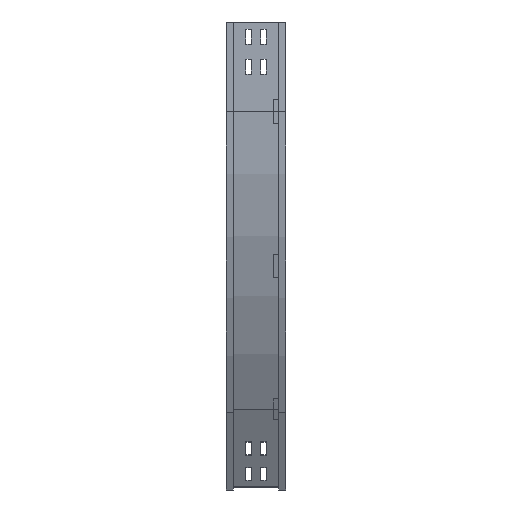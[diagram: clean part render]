
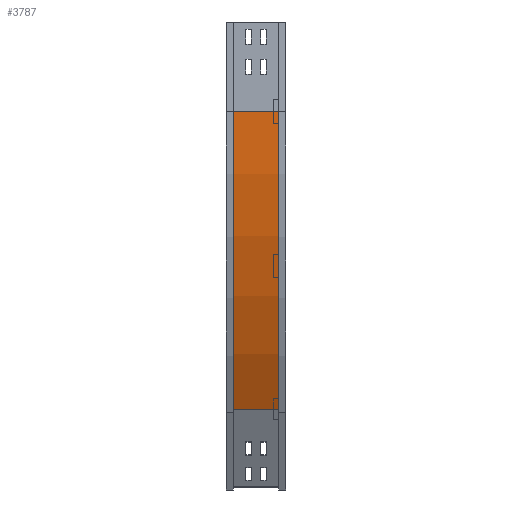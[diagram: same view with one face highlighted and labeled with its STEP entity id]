
A CAD part, left-side view. The second image highlights one B-rep face of the part: STEP entity #3787.
In plain terms, the highlighted cylindrical face has radius 1000 mm (diameter 2000 mm), a partial arc.
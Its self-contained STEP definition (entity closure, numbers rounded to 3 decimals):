
#106 = VERTEX_POINT ( 'NONE', #1688 ) ;
#330 = CARTESIAN_POINT ( 'NONE',  ( 142.975, 12., -650. ) ) ;
#416 = FACE_OUTER_BOUND ( 'NONE', #4371, .T. ) ;
#504 = CARTESIAN_POINT ( 'NONE',  ( 9., 12., -150. ) ) ;
#554 = EDGE_CURVE ( 'NONE', #106, #814, #1065, .T. ) ;
#561 = AXIS2_PLACEMENT_3D ( 'NONE', #2550, #2108, #3893 ) ;
#602 = VERTEX_POINT ( 'NONE', #1406 ) ;
#787 = CIRCLE ( 'NONE', #4282, 1000. ) ;
#814 = VERTEX_POINT ( 'NONE', #330 ) ;
#834 = VERTEX_POINT ( 'NONE', #2370 ) ;
#858 = VECTOR ( 'NONE', #4112, 1000. ) ;
#1065 = CIRCLE ( 'NONE', #561, 1000. ) ;
#1218 = EDGE_CURVE ( 'NONE', #602, #834, #787, .T. ) ;
#1234 = ORIENTED_EDGE ( 'NONE', *, *, #1218, .T. ) ;
#1299 = DIRECTION ( 'NONE',  ( -1., 0., 0. ) ) ;
#1406 = CARTESIAN_POINT ( 'NONE',  ( 9., 88., -150. ) ) ;
#1452 = ORIENTED_EDGE ( 'NONE', *, *, #3093, .F. ) ;
#1565 = LINE ( 'NONE', #504, #858 ) ;
#1634 = CARTESIAN_POINT ( 'NONE',  ( 1009., 88., -150. ) ) ;
#1653 = CARTESIAN_POINT ( 'NONE',  ( 142.975, 12., -650. ) ) ;
#1688 = CARTESIAN_POINT ( 'NONE',  ( 9., 12., -150. ) ) ;
#1797 = CYLINDRICAL_SURFACE ( 'NONE', #1805, 1000. ) ;
#1805 = AXIS2_PLACEMENT_3D ( 'NONE', #3588, #3197, #3635 ) ;
#2020 = VECTOR ( 'NONE', #3098, 1000. ) ;
#2108 = DIRECTION ( 'NONE',  ( 0., -1., 0. ) ) ;
#2126 = ORIENTED_EDGE ( 'NONE', *, *, #554, .F. ) ;
#2370 = CARTESIAN_POINT ( 'NONE',  ( 142.975, 88., -650. ) ) ;
#2550 = CARTESIAN_POINT ( 'NONE',  ( 1009., 12., -150. ) ) ;
#2905 = EDGE_CURVE ( 'NONE', #834, #814, #3026, .T. ) ;
#3026 = LINE ( 'NONE', #1653, #2020 ) ;
#3093 = EDGE_CURVE ( 'NONE', #602, #106, #1565, .T. ) ;
#3098 = DIRECTION ( 'NONE',  ( 0., -1., 0. ) ) ;
#3197 = DIRECTION ( 'NONE',  ( 0., -1., 0. ) ) ;
#3335 = ORIENTED_EDGE ( 'NONE', *, *, #2905, .T. ) ;
#3588 = CARTESIAN_POINT ( 'NONE',  ( 1009., 0., -150. ) ) ;
#3635 = DIRECTION ( 'NONE',  ( 0., 0., -1. ) ) ;
#3787 = ADVANCED_FACE ( 'NONE', ( #416 ), #1797, .T. ) ;
#3893 = DIRECTION ( 'NONE',  ( -1., 0., 0. ) ) ;
#3894 = DIRECTION ( 'NONE',  ( 0., -1., 0. ) ) ;
#4112 = DIRECTION ( 'NONE',  ( 0., -1., 0. ) ) ;
#4282 = AXIS2_PLACEMENT_3D ( 'NONE', #1634, #3894, #1299 ) ;
#4371 = EDGE_LOOP ( 'NONE', ( #2126, #1452, #1234, #3335 ) ) ;
